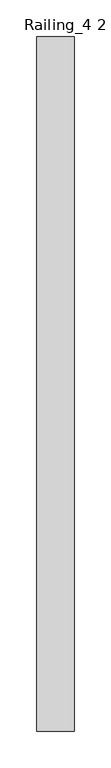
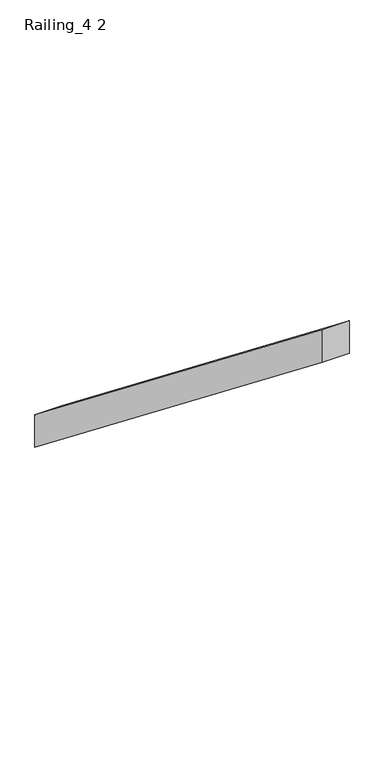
"""IFC4 building model written with IfcOpenShell, lengths in millimetres: railing geometry, Railing_4 2."""

from ifc_helpers import new_model, si_unit, frame, origin, place, context, project, spatial, polyline, outline, extrude, source, transform, mapped, element, save


def railing_4_2_93178abc(model_context):
    return source(origin(), model_context, "Body", "SweptSolid", [
        extrude(outline(polyline([(2692.4003297, 2007.9828852), (2692.4003297, 1943.3424425), (1748.822061, 2685.7941337), (1748.822061, 2750.4345764), (2692.4003297, 2007.9828852)])), frame((4115.1773999, 0.0, 0.0), z_axis=(1.0, 0.0, 0.0), x_axis=(0.0, 1.0, 0.0)), (0.0, 0.0, 1.0), 50.8),
    ])


if __name__ == "__main__":
    model = new_model("IFC4")
    model_context = context("Model", 3, world=origin())
    ifc_project = project(units=[si_unit("LENGTHUNIT", "METRE", prefix="MILLI")], contexts=[model_context])
    site = spatial("IfcSite", under=ifc_project)
    building = spatial("IfcBuilding", under=site)
    placement = place(None, origin())
    railing_4_2_shape = railing_4_2_93178abc(model_context)
    element("IfcRailing", 1, ObjectType="Railing_4 2", at=placement, inside=building, context=model_context, shape_type="MappedRepresentation", body=[
        mapped(railing_4_2_shape, transform((0.0, 0.0, 0.0), x_axis=(1.0, 0.0, 0.0), y_axis=(0.0, 1.0, 0.0), z_axis=(0.0, 0.0, 1.0))),
    ])
    save(model, "model.ifc")
